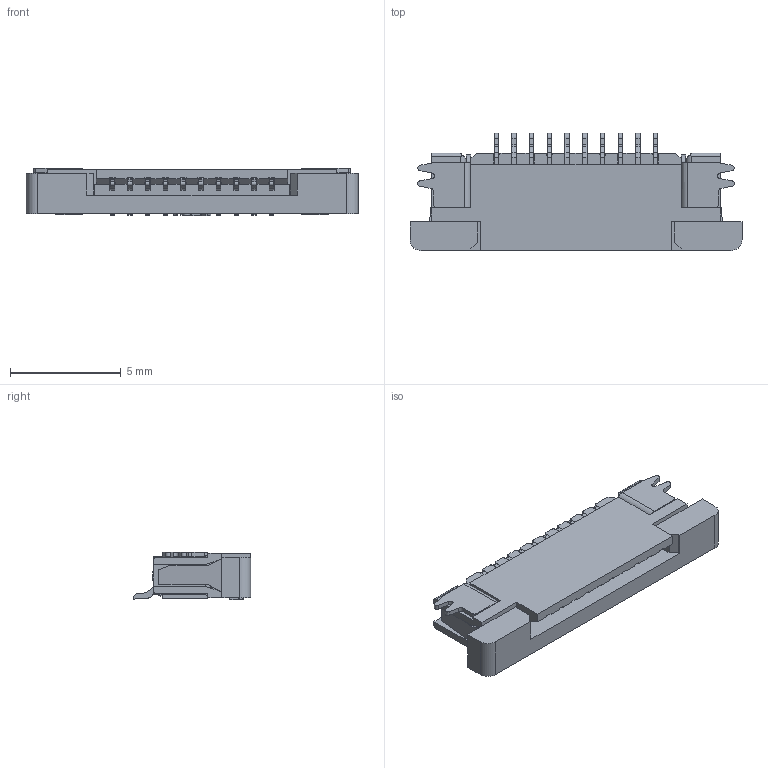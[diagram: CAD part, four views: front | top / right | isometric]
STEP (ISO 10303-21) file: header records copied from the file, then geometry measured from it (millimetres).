
FILE_DESCRIPTION (( 'STEP AP203' ), '1' );
FILE_NAME ('GT-F0801SR20-XXXXX01.STEP', '2024-03-08T02:21:53', ( '' ), ( '' ), 'SwSTEP 2.0', 'SolidWorks 2023', '' );
FILE_SCHEMA (( 'CONFIG_CONTROL_DESIGN' ));
Length unit declared in the file: millimetre
Products named in the file (1): GT-F0801SR20-XXXXX01
Bounding box: 15 x 5.3 x 2.15 mm (x, y, z)
Volume: 97.4 mm3; surface area: 523 mm2
Topology: 14 solids, 14 shells, 1523 faces, 4495 edges, 2988 vertices
Faces by surface type: plane 972, cylinder 471, bspline 80
Entity records: 54652 total; most frequent: CARTESIAN_POINT 13549, ORIENTED_EDGE 8990, DIRECTION 8137, EDGE_CURVE 4495, VECTOR 3381, LINE 3381, VERTEX_POINT 2988, AXIS2_PLACEMENT_3D 2378
